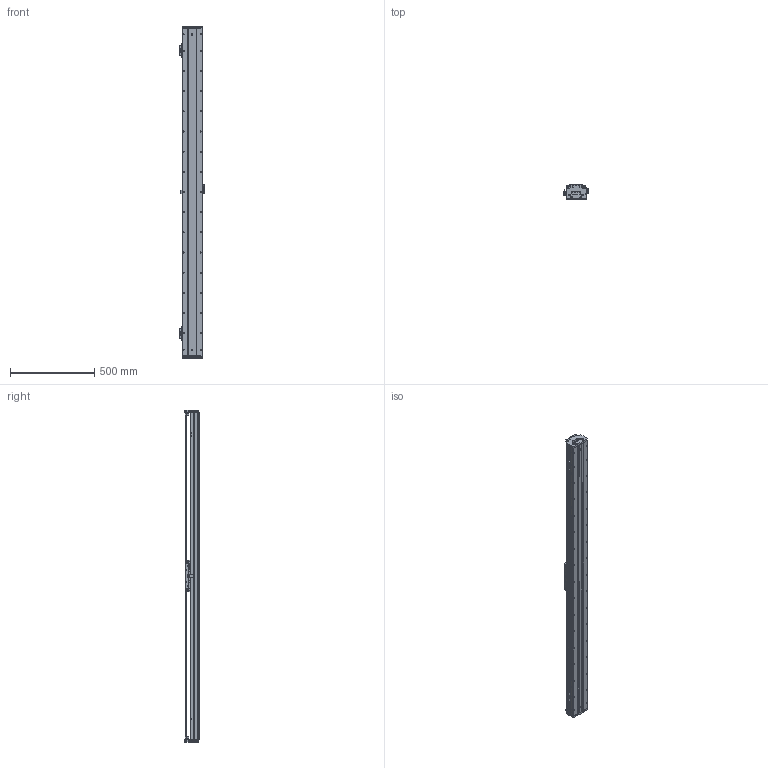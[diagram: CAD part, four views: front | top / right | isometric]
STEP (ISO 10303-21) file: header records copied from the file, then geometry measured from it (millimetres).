
FILE_DESCRIPTION (( 'STEP AP203' ), '1' );
FILE_NAME ('DKW120-B2-W060（T1680-L005-0.2）.STEP', '2021-09-02T07:01:46', ( '微软用户' ), ( '微软中国' ), 'SwSTEP 2.0', 'SolidWorks 2018', '' );
FILE_SCHEMA (( 'CONFIG_CONTROL_DESIGN' ));
Length unit declared in the file: millimetre
Products named in the file (20): 12160-0000-004-00  DKW120詩湍揤輸; DKW120-B15-T300-DZ-00 菁釱; EE_SX674A; DKW120 单轴模组-拉钢带组件; MSB15-DG-U; B2-W060_00; BKMA01-W060-TRL280; 06652-0001-001-00 DKW120傷啣; DKW120-B2-W060（T1680-L005-0.2）; RUS嫖掑喜; 06652-0001-004-00 DKW120嶺輸菜輸; Ru2; DKW-HXJ-JY-00 遣喳砎蝶; RUS嫖掑郪璃; 10940-0001-004-00 120詩湍裔啣; DKW119-RU-DTJ-00 RU2黍杅芛盓殤; 砎蝶猾沭; 10980-0001-003-00 嫖萇羲壽嘐隅釱; 12160-0000-003-00 DKW120詩湍嶺輸; DKW-SG-GYP-H-00 嫖萇覜茼え
Assembly tree (33 placements, depth 3):
  DKW120-B2-W060（T1680-L005-0.2）
    DKW120-B15-T300-DZ-00 菁釱
    MSB15-DG-U  x2
    DKW120 单轴模组-拉钢带组件
      06652-0001-001-00 DKW120傷啣  x2
      06652-0001-004-00 DKW120嶺輸菜輸  x4
      DKW-HXJ-JY-00 遣喳砎蝶  x4
      10940-0001-004-00 120詩湍裔啣
      砎蝶猾沭  x2
      12160-0000-003-00 DKW120詩湍嶺輸  x2
      12160-0000-004-00  DKW120詩湍揤輸  x2
    BKMA01-W060-TRL280
    RUS嫖掑郪璃
      RUS嫖掑喜
      Ru2
    DKW119-RU-DTJ-00 RU2黍杅芛盓殤
    10980-0001-003-00 嫖萇羲壽嘐隅釱  x2
    DKW-SG-GYP-H-00 嫖萇覜茼え
    EE_SX674A  x3
    B2-W060_00
Bounding box: 154.1 x 84 x 1976 mm (x, y, z)
Volume: 6837751.9 mm3; surface area: 2712120.4 mm2
Topology: 41 solids, 90 shells, 4264 faces, 11754 edges, 7577 vertices
Faces by surface type: plane 2271, cylinder 1414, cone 332, bspline 247
Entity records: 137054 total; most frequent: CARTESIAN_POINT 47813, ORIENTED_EDGE 18553, DIRECTION 17200, EDGE_CURVE 9317, VERTEX_POINT 6124, AXIS2_PLACEMENT_3D 5758, LINE 5684, VECTOR 5684
